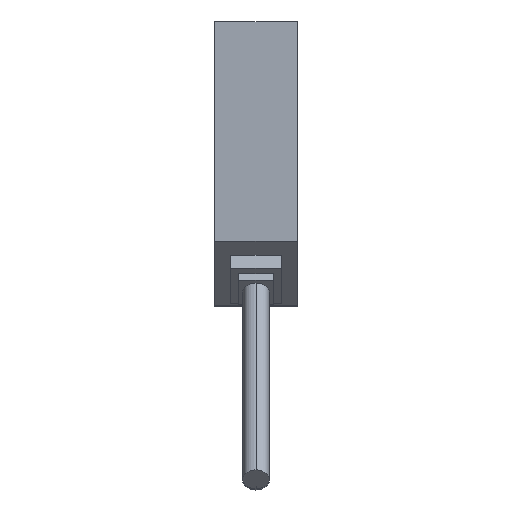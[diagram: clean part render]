
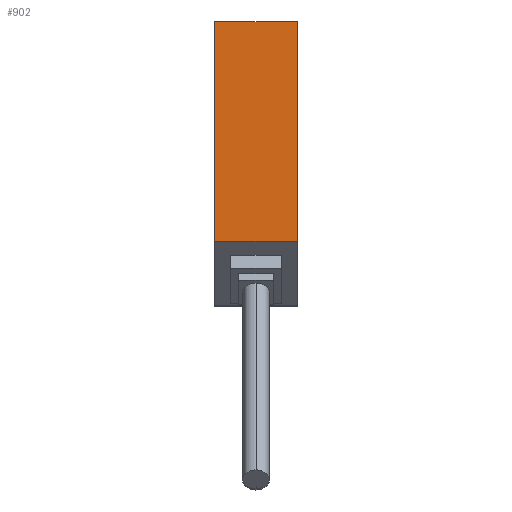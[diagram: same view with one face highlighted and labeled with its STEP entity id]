
A CAD part, top view. The second image highlights one B-rep face of the part: STEP entity #902.
In plain terms, the highlighted planar face has unit normal (0, 0, 1) as drawn and (0, 0, -1) by its records, which use the part's own axes.
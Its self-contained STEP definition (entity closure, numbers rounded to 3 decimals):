
#730 = VERTEX_POINT ( 'NONE', #2531 ) ;
#732 = EDGE_CURVE ( 'NONE', #775, #730, #2597, .T. ) ;
#775 = VERTEX_POINT ( 'NONE', #2637 ) ;
#818 = EDGE_LOOP ( 'NONE', ( #819, #822, #823, #826 ) ) ;
#819 = ORIENTED_EDGE ( 'NONE', *, *, #820, .F. ) ;
#820 = EDGE_CURVE ( 'NONE', #775, #821, #2761, .T. ) ;
#821 = VERTEX_POINT ( 'NONE', #2757 ) ;
#822 = ORIENTED_EDGE ( 'NONE', *, *, #732, .T. ) ;
#823 = ORIENTED_EDGE ( 'NONE', *, *, #824, .T. ) ;
#824 = EDGE_CURVE ( 'NONE', #730, #825, #2756, .T. ) ;
#825 = VERTEX_POINT ( 'NONE', #2752 ) ;
#826 = ORIENTED_EDGE ( 'NONE', *, *, #827, .F. ) ;
#827 = EDGE_CURVE ( 'NONE', #821, #825, #2751, .T. ) ;
#902 = ADVANCED_FACE ( 'NONE', ( #2887 ), #2886, .F. ) ;
#2531 = CARTESIAN_POINT ( 'NONE',  ( -9., -48., -35. ) ) ;
#2594 = DIRECTION ( 'NONE',  ( -1., 0., 0. ) ) ;
#2595 = VECTOR ( 'NONE', #2594, 1000. ) ;
#2596 = CARTESIAN_POINT ( 'NONE',  ( 9., -48., -35. ) ) ;
#2597 = LINE ( 'NONE', #2596, #2595 ) ;
#2637 = CARTESIAN_POINT ( 'NONE',  ( 9., -48., -35. ) ) ;
#2748 = DIRECTION ( 'NONE',  ( -1., 0., 0. ) ) ;
#2749 = VECTOR ( 'NONE', #2748, 1000. ) ;
#2750 = CARTESIAN_POINT ( 'NONE',  ( 9., 0., -35. ) ) ;
#2751 = LINE ( 'NONE', #2750, #2749 ) ;
#2752 = CARTESIAN_POINT ( 'NONE',  ( -9., 0., -35. ) ) ;
#2753 = DIRECTION ( 'NONE',  ( 0., 1., 0. ) ) ;
#2754 = VECTOR ( 'NONE', #2753, 1000. ) ;
#2755 = CARTESIAN_POINT ( 'NONE',  ( -9., 0., -35. ) ) ;
#2756 = LINE ( 'NONE', #2755, #2754 ) ;
#2757 = CARTESIAN_POINT ( 'NONE',  ( 9., 0., -35. ) ) ;
#2758 = DIRECTION ( 'NONE',  ( 0., 1., 0. ) ) ;
#2759 = VECTOR ( 'NONE', #2758, 1000. ) ;
#2760 = CARTESIAN_POINT ( 'NONE',  ( 9., 0., -35. ) ) ;
#2761 = LINE ( 'NONE', #2760, #2759 ) ;
#2882 = DIRECTION ( 'NONE',  ( 0., -1., 0. ) ) ;
#2883 = DIRECTION ( 'NONE',  ( 0., 0., 1. ) ) ;
#2884 = CARTESIAN_POINT ( 'NONE',  ( 9., 0., -35. ) ) ;
#2885 = AXIS2_PLACEMENT_3D ( 'NONE', #2884, #2883, #2882 ) ;
#2886 = PLANE ( 'NONE',  #2885 ) ;
#2887 = FACE_OUTER_BOUND ( 'NONE', #818, .T. ) ;
